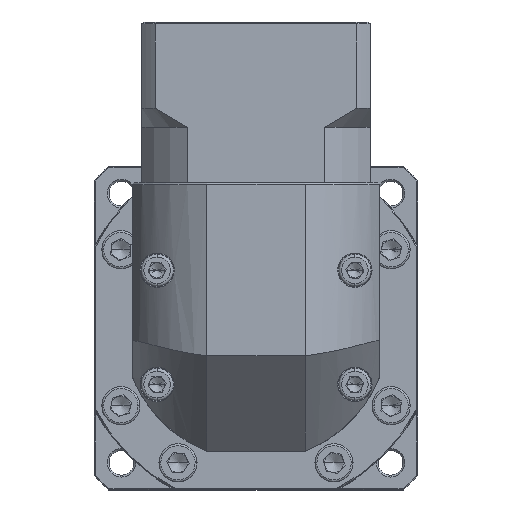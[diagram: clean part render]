
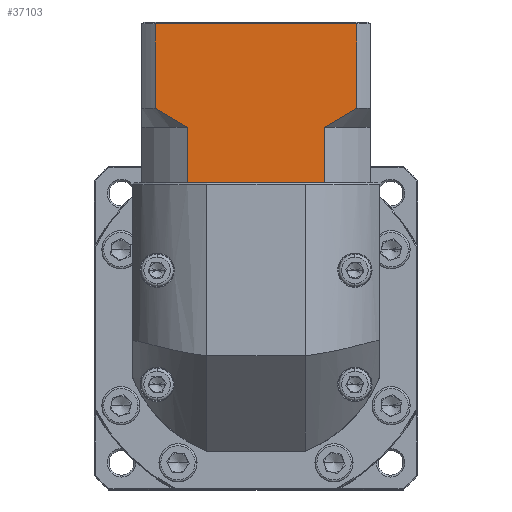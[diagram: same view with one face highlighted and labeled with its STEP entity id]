
A CAD part, top view. The second image highlights one B-rep face of the part: STEP entity #37103.
In plain terms, the highlighted planar face has unit normal (0, 0, 1).
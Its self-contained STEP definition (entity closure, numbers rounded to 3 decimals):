
#343 = DIRECTION ( 'NONE',  ( 0., -1., 0. ) ) ;
#1458 = DIRECTION ( 'NONE',  ( -1., 0., 0. ) ) ;
#1520 = FACE_OUTER_BOUND ( 'NONE', #2572, .T. ) ;
#2572 = EDGE_LOOP ( 'NONE', ( #86393, #98789, #130743, #122992, #37752, #81745, #55568, #43934, #6092, #32296 ) ) ;
#3951 = LINE ( 'NONE', #46605, #63404 ) ;
#5996 = DIRECTION ( 'NONE',  ( 1., 0., 0. ) ) ;
#6092 = ORIENTED_EDGE ( 'NONE', *, *, #13575, .F. ) ;
#10310 = CARTESIAN_POINT ( 'NONE',  ( -105.138, 93.029, 45.955 ) ) ;
#10710 = CARTESIAN_POINT ( 'NONE',  ( -108.681, 115.229, 45.955 ) ) ;
#11118 = CARTESIAN_POINT ( 'NONE',  ( -57.771, 89.579, 45.955 ) ) ;
#13575 = EDGE_CURVE ( 'NONE', #134755, #36704, #84392, .T. ) ;
#13874 = DIRECTION ( 'NONE',  ( 0., 1., 0. ) ) ;
#16398 = CARTESIAN_POINT ( 'NONE',  ( -103.778, 92.129, 45.955 ) ) ;
#16413 = VECTOR ( 'NONE', #93807, 1000. ) ;
#18133 = CARTESIAN_POINT ( 'NONE',  ( -96.708, 73.529, 45.955 ) ) ;
#20373 = CARTESIAN_POINT ( 'NONE',  ( -96.708, 88.029, 45.955 ) ) ;
#20505 = VECTOR ( 'NONE', #1458, 1000. ) ;
#20725 = VERTEX_POINT ( 'NONE', #73097 ) ;
#21440 = LINE ( 'NONE', #56342, #109074 ) ;
#26728 = CARTESIAN_POINT ( 'NONE',  ( -95.717, 73.529, 45.955 ) ) ;
#27034 = CARTESIAN_POINT ( 'NONE',  ( -102.4, 91.256, 45.955 ) ) ;
#29476 = VERTEX_POINT ( 'NONE', #18133 ) ;
#32296 = ORIENTED_EDGE ( 'NONE', *, *, #76213, .T. ) ;
#34731 = EDGE_CURVE ( 'NONE', #56805, #109877, #128948, .T. ) ;
#36704 = VERTEX_POINT ( 'NONE', #59827 ) ;
#37103 = ADVANCED_FACE ( 'NONE', ( #1520 ), #78220, .F. ) ;
#37752 = ORIENTED_EDGE ( 'NONE', *, *, #135984, .F. ) ;
#39292 = AXIS2_PLACEMENT_3D ( 'NONE', #109703, #46378, #68495 ) ;
#39743 = LINE ( 'NONE', #69213, #79386 ) ;
#40157 = CARTESIAN_POINT ( 'NONE',  ( -108.681, 73.529, 45.955 ) ) ;
#42999 = CARTESIAN_POINT ( 'NONE',  ( -52.223, 93.029, 45.955 ) ) ;
#43934 = ORIENTED_EDGE ( 'NONE', *, *, #79048, .T. ) ;
#46271 = CARTESIAN_POINT ( 'NONE',  ( -96.708, 88.029, 45.955 ) ) ;
#46378 = DIRECTION ( 'NONE',  ( 0., 0., -1. ) ) ;
#46605 = CARTESIAN_POINT ( 'NONE',  ( -105.138, 88.029, 45.955 ) ) ;
#46940 = EDGE_CURVE ( 'NONE', #65336, #97004, #47757, .T. ) ;
#47757 = B_SPLINE_CURVE_WITH_KNOTS ( 'NONE', 3,
 ( #121334, #16398, #27034, #112004, #100478, #101363 ),
 .UNSPECIFIED., .F., .F.,
 ( 4, 2, 4 ),
 ( 0.052, 0.057, 0.062 ),
 .UNSPECIFIED. ) ;
#49992 = VERTEX_POINT ( 'NONE', #107562 ) ;
#52260 = CARTESIAN_POINT ( 'NONE',  ( -59.196, 88.779, 45.955 ) ) ;
#53183 = CARTESIAN_POINT ( 'NONE',  ( -60.653, 88.029, 45.955 ) ) ;
#54881 = CARTESIAN_POINT ( 'NONE',  ( -52.223, 93.029, 45.955 ) ) ;
#55568 = ORIENTED_EDGE ( 'NONE', *, *, #65624, .T. ) ;
#56342 = CARTESIAN_POINT ( 'NONE',  ( -108.681, 73.529, 45.955 ) ) ;
#56805 = VERTEX_POINT ( 'NONE', #83689 ) ;
#59827 = CARTESIAN_POINT ( 'NONE',  ( -60.653, 73.529, 45.955 ) ) ;
#63404 = VECTOR ( 'NONE', #13874, 1000. ) ;
#64196 = CARTESIAN_POINT ( 'NONE',  ( -54.966, 91.253, 45.955 ) ) ;
#65336 = VERTEX_POINT ( 'NONE', #10310 ) ;
#65624 = EDGE_CURVE ( 'NONE', #92976, #20725, #39743, .T. ) ;
#66948 = VECTOR ( 'NONE', #125736, 1000. ) ;
#68495 = DIRECTION ( 'NONE',  ( 0., 1., 0. ) ) ;
#69213 = CARTESIAN_POINT ( 'NONE',  ( -108.681, 73.529, 45.955 ) ) ;
#73097 = CARTESIAN_POINT ( 'NONE',  ( -61.644, 73.529, 45.955 ) ) ;
#75298 = CARTESIAN_POINT ( 'NONE',  ( -53.586, 92.127, 45.955 ) ) ;
#75896 = VECTOR ( 'NONE', #98503, 1000. ) ;
#76213 = EDGE_CURVE ( 'NONE', #134755, #109877, #130971, .T. ) ;
#78220 = PLANE ( 'NONE',  #39292 ) ;
#79048 = EDGE_CURVE ( 'NONE', #20725, #36704, #21440, .T. ) ;
#79386 = VECTOR ( 'NONE', #5996, 1000. ) ;
#81745 = ORIENTED_EDGE ( 'NONE', *, *, #107268, .T. ) ;
#83689 = CARTESIAN_POINT ( 'NONE',  ( -52.223, 115.229, 45.955 ) ) ;
#84392 = LINE ( 'NONE', #96430, #95945 ) ;
#86393 = ORIENTED_EDGE ( 'NONE', *, *, #34731, .F. ) ;
#92976 = VERTEX_POINT ( 'NONE', #26728 ) ;
#93807 = DIRECTION ( 'NONE',  ( 0., -1., 0. ) ) ;
#95105 = LINE ( 'NONE', #40157, #66948 ) ;
#95945 = VECTOR ( 'NONE', #343, 1000. ) ;
#96430 = CARTESIAN_POINT ( 'NONE',  ( -60.653, 88.029, 45.955 ) ) ;
#96564 = LINE ( 'NONE', #10710, #20505 ) ;
#97004 = VERTEX_POINT ( 'NONE', #20373 ) ;
#98503 = DIRECTION ( 'NONE',  ( 0., 1., 0. ) ) ;
#98789 = ORIENTED_EDGE ( 'NONE', *, *, #127211, .T. ) ;
#99131 = LINE ( 'NONE', #46271, #75896 ) ;
#100478 = CARTESIAN_POINT ( 'NONE',  ( -98.16, 88.776, 45.955 ) ) ;
#101363 = CARTESIAN_POINT ( 'NONE',  ( -96.708, 88.029, 45.955 ) ) ;
#107268 = EDGE_CURVE ( 'NONE', #29476, #92976, #95105, .T. ) ;
#107562 = CARTESIAN_POINT ( 'NONE',  ( -105.138, 115.229, 45.955 ) ) ;
#108086 = EDGE_CURVE ( 'NONE', #65336, #49992, #3951, .T. ) ;
#109074 = VECTOR ( 'NONE', #129475, 1000. ) ;
#109703 = CARTESIAN_POINT ( 'NONE',  ( -108.681, 115.729, 45.955 ) ) ;
#109877 = VERTEX_POINT ( 'NONE', #54881 ) ;
#112004 = CARTESIAN_POINT ( 'NONE',  ( -99.592, 89.58, 45.955 ) ) ;
#113759 = CARTESIAN_POINT ( 'NONE',  ( -52.223, 88.029, 45.955 ) ) ;
#121334 = CARTESIAN_POINT ( 'NONE',  ( -105.138, 93.029, 45.955 ) ) ;
#122045 = CARTESIAN_POINT ( 'NONE',  ( -60.653, 88.029, 45.955 ) ) ;
#122992 = ORIENTED_EDGE ( 'NONE', *, *, #46940, .T. ) ;
#125736 = DIRECTION ( 'NONE',  ( 1., 0., 0. ) ) ;
#127211 = EDGE_CURVE ( 'NONE', #56805, #49992, #96564, .T. ) ;
#128948 = LINE ( 'NONE', #113759, #16413 ) ;
#129475 = DIRECTION ( 'NONE',  ( 1., 0., 0. ) ) ;
#130743 = ORIENTED_EDGE ( 'NONE', *, *, #108086, .F. ) ;
#130971 = B_SPLINE_CURVE_WITH_KNOTS ( 'NONE', 3,
 ( #53183, #52260, #11118, #64196, #75298, #42999 ),
 .UNSPECIFIED., .F., .F.,
 ( 4, 2, 4 ),
 ( 0.1, 0.104, 0.109 ),
 .UNSPECIFIED. ) ;
#134755 = VERTEX_POINT ( 'NONE', #122045 ) ;
#135984 = EDGE_CURVE ( 'NONE', #29476, #97004, #99131, .T. ) ;
